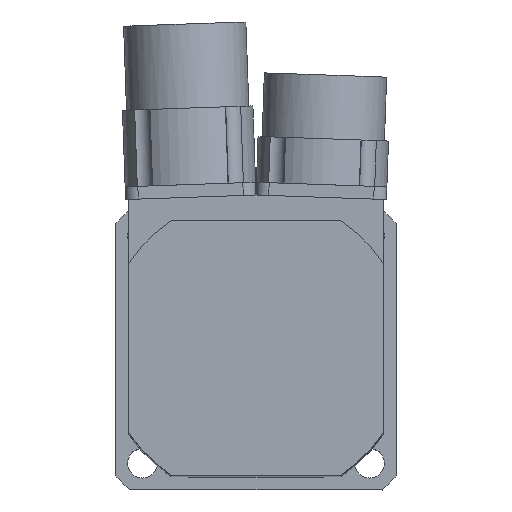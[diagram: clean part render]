
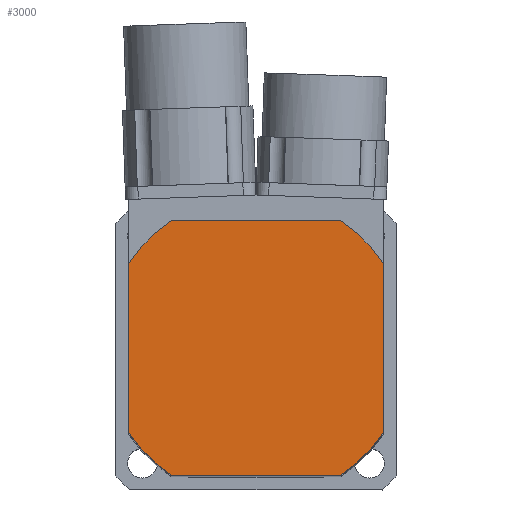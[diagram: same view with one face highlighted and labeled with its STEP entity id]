
A CAD part, top view. The second image highlights one B-rep face of the part: STEP entity #3000.
In plain terms, the highlighted planar face has unit normal (0, 0, 1).
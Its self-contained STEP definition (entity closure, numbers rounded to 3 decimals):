
#228=PLANE('',#3235);
#338=CIRCLE('',#3226,30.);
#339=CIRCLE('',#3228,30.);
#340=CIRCLE('',#3230,30.);
#342=CIRCLE('',#3233,30.);
#565=VECTOR('',#3755,1.);
#573=VECTOR('',#3764,1.);
#581=VECTOR('',#3781,1.);
#601=VECTOR('',#3845,1.);
#774=LINE('',#5263,#565);
#782=LINE('',#5280,#573);
#790=LINE('',#5349,#581);
#810=LINE('',#5410,#601);
#1008=VERTEX_POINT('',#5262);
#1009=VERTEX_POINT('',#5264);
#1016=VERTEX_POINT('',#5279);
#1017=VERTEX_POINT('',#5281);
#1028=VERTEX_POINT('',#5348);
#1029=VERTEX_POINT('',#5350);
#1040=VERTEX_POINT('',#5398);
#1041=VERTEX_POINT('',#5407);
#1373=EDGE_CURVE('',#1008,#1009,#774,.T.);
#1381=EDGE_CURVE('',#1016,#1017,#782,.T.);
#1393=EDGE_CURVE('',#1028,#1029,#790,.T.);
#1418=EDGE_CURVE('',#1040,#1016,#338,.T.);
#1420=EDGE_CURVE('',#1017,#1008,#339,.T.);
#1421=EDGE_CURVE('',#1009,#1028,#340,.T.);
#1423=EDGE_CURVE('',#1029,#1041,#342,.T.);
#1425=EDGE_CURVE('',#1041,#1040,#810,.T.);
#2078=ORIENTED_EDGE('',*,*,#1418,.F.);
#2079=ORIENTED_EDGE('',*,*,#1425,.F.);
#2080=ORIENTED_EDGE('',*,*,#1423,.F.);
#2081=ORIENTED_EDGE('',*,*,#1393,.F.);
#2082=ORIENTED_EDGE('',*,*,#1421,.F.);
#2083=ORIENTED_EDGE('',*,*,#1373,.F.);
#2084=ORIENTED_EDGE('',*,*,#1420,.F.);
#2085=ORIENTED_EDGE('',*,*,#1381,.F.);
#2563=EDGE_LOOP('',(#2078,#2079,#2080,#2081,#2082,#2083,#2084,#2085));
#2794=FACE_BOUND('',#2563,.T.);
#3000=ADVANCED_FACE('',(#2794),#228,.T.);
#3226=AXIS2_PLACEMENT_3D('',#5397,#3826,#3827);
#3228=AXIS2_PLACEMENT_3D('',#5401,#3831,#3832);
#3230=AXIS2_PLACEMENT_3D('',#5403,#3835,#3836);
#3233=AXIS2_PLACEMENT_3D('',#5406,#3841,#3842);
#3235=AXIS2_PLACEMENT_3D('',#5411,#3846,$);
#3755=DIRECTION('',(-1.,0.,0.));
#3764=DIRECTION('',(0.,-1.,0.));
#3781=DIRECTION('',(0.,1.,0.));
#3826=DIRECTION('',(0.,0.,-1.));
#3827=DIRECTION('',(-25.,-16.583,0.));
#3831=DIRECTION('',(0.,0.,-1.));
#3832=DIRECTION('',(-16.583,25.,0.));
#3835=DIRECTION('',(0.,0.,-1.));
#3836=DIRECTION('',(25.,16.583,0.));
#3841=DIRECTION('',(0.,0.,-1.));
#3842=DIRECTION('',(16.583,-25.,0.));
#3845=DIRECTION('',(1.,0.,0.));
#3846=DIRECTION('',(0.,0.,1.));
#5262=CARTESIAN_POINT('',(16.583,-25.,3.5));
#5263=CARTESIAN_POINT('',(16.583,-25.,3.5));
#5264=CARTESIAN_POINT('',(-16.583,-25.,3.5));
#5279=CARTESIAN_POINT('',(25.,16.583,3.5));
#5280=CARTESIAN_POINT('',(25.,16.583,3.5));
#5281=CARTESIAN_POINT('',(25.,-16.583,3.5));
#5348=CARTESIAN_POINT('',(-25.,-16.583,3.5));
#5349=CARTESIAN_POINT('',(-25.,-16.583,3.5));
#5350=CARTESIAN_POINT('',(-25.,16.583,3.5));
#5397=CARTESIAN_POINT('',(0.,0.,3.5));
#5398=CARTESIAN_POINT('',(16.583,25.,3.5));
#5401=CARTESIAN_POINT('',(0.,0.,3.5));
#5403=CARTESIAN_POINT('',(0.,0.,3.5));
#5406=CARTESIAN_POINT('',(0.,0.,3.5));
#5407=CARTESIAN_POINT('',(-16.583,25.,3.5));
#5410=CARTESIAN_POINT('',(-16.583,25.,3.5));
#5411=CARTESIAN_POINT('',(0.,0.,3.5));
